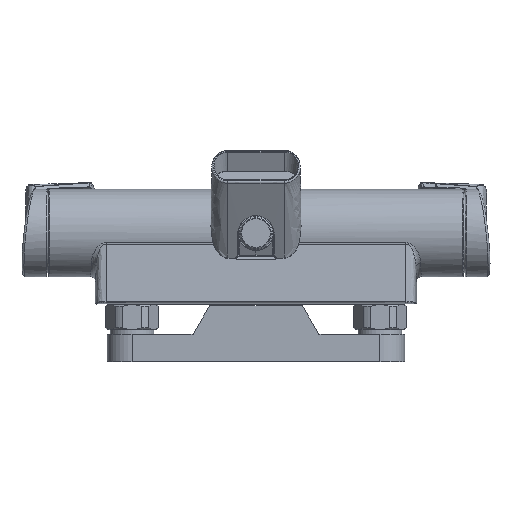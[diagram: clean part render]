
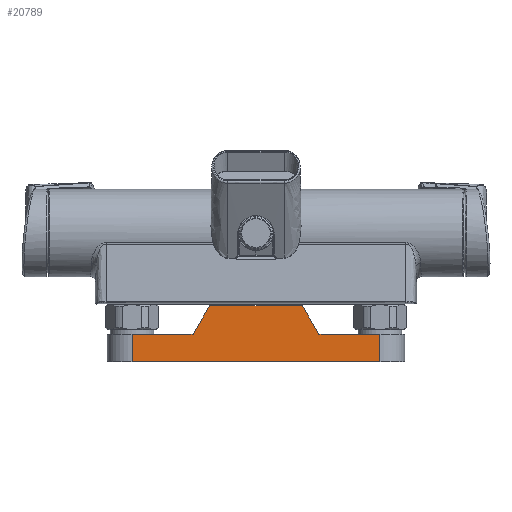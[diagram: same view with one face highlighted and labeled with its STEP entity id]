
A CAD part, front view. The second image highlights one B-rep face of the part: STEP entity #20789.
In plain terms, the highlighted planar face has unit normal (0, -1, 0).
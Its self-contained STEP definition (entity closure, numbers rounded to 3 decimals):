
#570 = CARTESIAN_POINT ( 'NONE',  ( -75., -15., 34. ) ) ;
#2208 = EDGE_CURVE ( 'NONE', #13448, #8969, #20742, .T. ) ;
#3392 = VERTEX_POINT ( 'NONE', #4269 ) ;
#3726 = LINE ( 'NONE', #18404, #3850 ) ;
#3850 = VECTOR ( 'NONE', #4232, 1000. ) ;
#4232 = DIRECTION ( 'NONE',  ( -1., 0., 0. ) ) ;
#4269 = CARTESIAN_POINT ( 'NONE',  ( 75., -15., 16.6 ) ) ;
#4346 = DIRECTION ( 'NONE',  ( 0., 0., -1. ) ) ;
#4347 = PLANE ( 'NONE',  #8384 ) ;
#4451 = VERTEX_POINT ( 'NONE', #11814 ) ;
#4614 = EDGE_CURVE ( 'NONE', #7535, #13448, #14012, .T. ) ;
#5300 = CARTESIAN_POINT ( 'NONE',  ( 75., -15., 0. ) ) ;
#5487 = CARTESIAN_POINT ( 'NONE',  ( -75., -15., 16.6 ) ) ;
#5797 = CARTESIAN_POINT ( 'NONE',  ( 75., -15., 16.6 ) ) ;
#6376 = DIRECTION ( 'NONE',  ( 0., -1., 0. ) ) ;
#6928 = VERTEX_POINT ( 'NONE', #24063 ) ;
#7535 = VERTEX_POINT ( 'NONE', #9544 ) ;
#8384 = AXIS2_PLACEMENT_3D ( 'NONE', #18611, #6376, #20674 ) ;
#8678 = VECTOR ( 'NONE', #25838, 1000. ) ;
#8765 = LINE ( 'NONE', #5300, #8678 ) ;
#8949 = VECTOR ( 'NONE', #4346, 1000. ) ;
#8963 = CARTESIAN_POINT ( 'NONE',  ( -28.054, -15., 34. ) ) ;
#8969 = VERTEX_POINT ( 'NONE', #11224 ) ;
#9066 = LINE ( 'NONE', #18610, #8949 ) ;
#9544 = CARTESIAN_POINT ( 'NONE',  ( 28.054, -15., 34. ) ) ;
#9554 = VECTOR ( 'NONE', #11984, 1000. ) ;
#9601 = LINE ( 'NONE', #18176, #9554 ) ;
#9808 = EDGE_CURVE ( 'NONE', #3392, #18388, #25918, .T. ) ;
#10257 = DIRECTION ( 'NONE',  ( -1., 0., 0. ) ) ;
#10552 = FACE_OUTER_BOUND ( 'NONE', #15905, .T. ) ;
#11224 = CARTESIAN_POINT ( 'NONE',  ( -38.1, -15., 16.6 ) ) ;
#11814 = CARTESIAN_POINT ( 'NONE',  ( 75., -15., 0. ) ) ;
#11984 = DIRECTION ( 'NONE',  ( -0.5, 0., 0.866 ) ) ;
#12830 = DIRECTION ( 'NONE',  ( 0., 0., -1. ) ) ;
#13448 = VERTEX_POINT ( 'NONE', #8963 ) ;
#13965 = VECTOR ( 'NONE', #10257, 1000. ) ;
#14012 = LINE ( 'NONE', #18408, #13965 ) ;
#15454 = EDGE_CURVE ( 'NONE', #21806, #6928, #17859, .T. ) ;
#15776 = DIRECTION ( 'NONE',  ( -1., 0., 0. ) ) ;
#15905 = EDGE_LOOP ( 'NONE', ( #17433, #17559, #23450, #21613, #17639, #22228, #20490, #16697 ) ) ;
#15965 = DIRECTION ( 'NONE',  ( -0.5, 0., -0.866 ) ) ;
#16697 = ORIENTED_EDGE ( 'NONE', *, *, #21891, .F. ) ;
#17433 = ORIENTED_EDGE ( 'NONE', *, *, #9808, .T. ) ;
#17559 = ORIENTED_EDGE ( 'NONE', *, *, #21536, .T. ) ;
#17639 = ORIENTED_EDGE ( 'NONE', *, *, #25494, .T. ) ;
#17814 = VECTOR ( 'NONE', #12830, 1000. ) ;
#17859 = LINE ( 'NONE', #570, #17814 ) ;
#18176 = CARTESIAN_POINT ( 'NONE',  ( 39.791, -15., 13.672 ) ) ;
#18388 = VERTEX_POINT ( 'NONE', #23535 ) ;
#18404 = CARTESIAN_POINT ( 'NONE',  ( 75., -15., 16.6 ) ) ;
#18408 = CARTESIAN_POINT ( 'NONE',  ( 75., -15., 34. ) ) ;
#18610 = CARTESIAN_POINT ( 'NONE',  ( 75., -15., 34. ) ) ;
#18611 = CARTESIAN_POINT ( 'NONE',  ( 75., -15., 34. ) ) ;
#20490 = ORIENTED_EDGE ( 'NONE', *, *, #22044, .F. ) ;
#20674 = DIRECTION ( 'NONE',  ( 0., 0., 1. ) ) ;
#20742 = LINE ( 'NONE', #24335, #21067 ) ;
#20789 = ADVANCED_FACE ( 'NONE', ( #10552 ), #4347, .T. ) ;
#21067 = VECTOR ( 'NONE', #15965, 1000. ) ;
#21536 = EDGE_CURVE ( 'NONE', #18388, #7535, #9601, .T. ) ;
#21613 = ORIENTED_EDGE ( 'NONE', *, *, #2208, .T. ) ;
#21806 = VERTEX_POINT ( 'NONE', #5487 ) ;
#21891 = EDGE_CURVE ( 'NONE', #3392, #4451, #9066, .T. ) ;
#22044 = EDGE_CURVE ( 'NONE', #4451, #6928, #8765, .T. ) ;
#22228 = ORIENTED_EDGE ( 'NONE', *, *, #15454, .T. ) ;
#23450 = ORIENTED_EDGE ( 'NONE', *, *, #4614, .T. ) ;
#23535 = CARTESIAN_POINT ( 'NONE',  ( 38.1, -15., 16.6 ) ) ;
#24063 = CARTESIAN_POINT ( 'NONE',  ( -75., -15., 0. ) ) ;
#24335 = CARTESIAN_POINT ( 'NONE',  ( -2.291, -15., 78.624 ) ) ;
#25494 = EDGE_CURVE ( 'NONE', #8969, #21806, #3726, .T. ) ;
#25838 = DIRECTION ( 'NONE',  ( -1., 0., 0. ) ) ;
#25912 = VECTOR ( 'NONE', #15776, 1000. ) ;
#25918 = LINE ( 'NONE', #5797, #25912 ) ;
